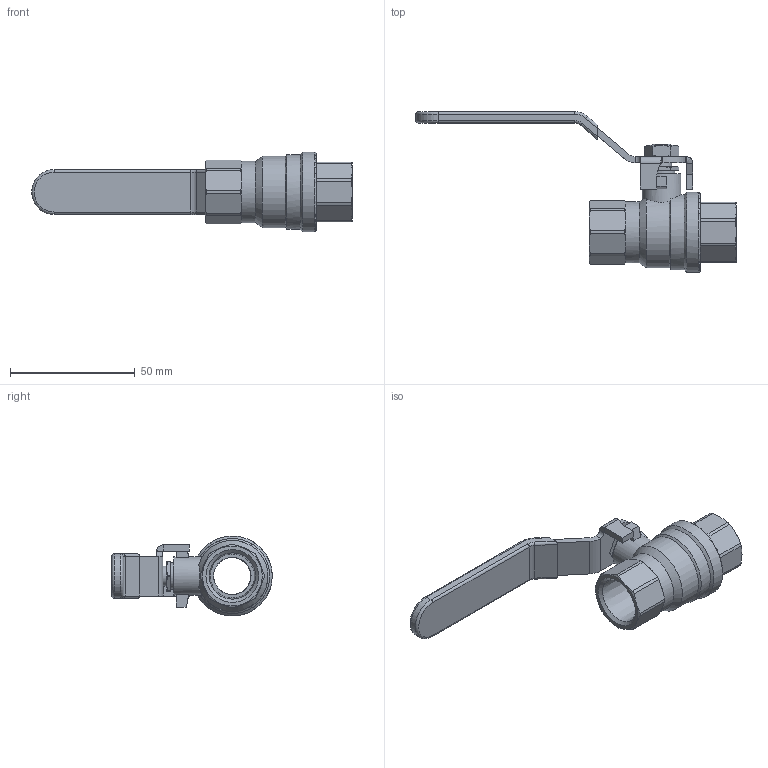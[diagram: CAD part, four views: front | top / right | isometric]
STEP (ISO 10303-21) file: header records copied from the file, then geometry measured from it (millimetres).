
FILE_DESCRIPTION((''),'2;1');
FILE_NAME('P:\Fastrack\53972_CRANE 3D\Fig100YL\100YL-12\100YL-12.stp','2011-01-27T15:42:48',('btaylor'),(''),'Autodesk Inventor 2008','Autodesk Inventor 2008','');
FILE_SCHEMA(('AUTOMOTIVE_DESIGN { 1 0 10303 214 1 1 1 1 }'));
Length unit declared in the file: millimetre
Products named in the file (1): 100YL-12
Bounding box: 128.4 x 64.31 x 32 mm (x, y, z)
Volume: 32362.3 mm3; surface area: 25735.6 mm2
Topology: 7 solids, 7 shells, 1483 faces, 3928 edges, 2597 vertices
Faces by surface type: plane 812, bspline 497, cylinder 85, cone 70, torus 16, sphere 3
Full cylindrical faces by diameter (mm): 8 x1, 8.1 x2, 8.3 x1, 9 x1, 9.5 x1, 10.5 x1, 10.6 x1, 10.75 x1, 13.5 x1, 14.8 x1, 15 x2, 15.5 x1, 20.2 x2, 21 x4, 24.5 x1, 25.5 x1, 27 x1, 27.2 x1, 30 x1, 32 x1
Entity records: 98141 total; most frequent: CARTESIAN_POINT 63666, ORIENTED_EDGE 7660, DIRECTION 4943, EDGE_CURVE 3830, VERTEX_POINT 2560, VECTOR 2421, LINE 2421, EDGE_LOOP 1708
